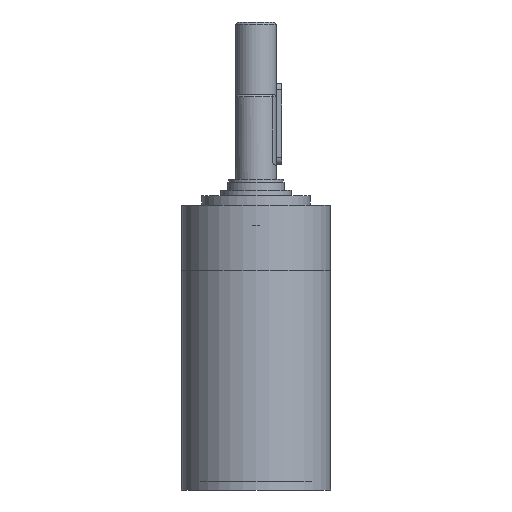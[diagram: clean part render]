
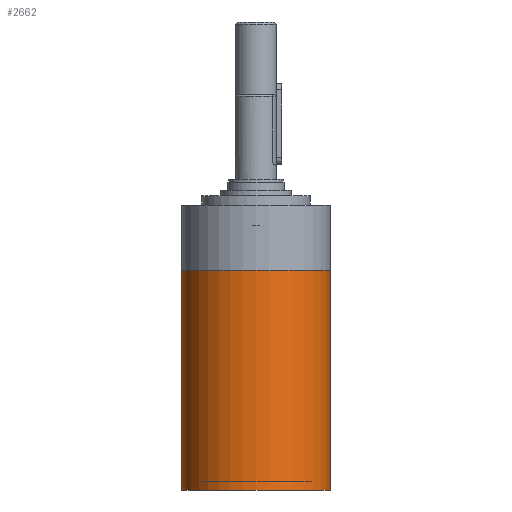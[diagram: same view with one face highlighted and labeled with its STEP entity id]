
A CAD part, left-side view. The second image highlights one B-rep face of the part: STEP entity #2662.
In plain terms, the highlighted cylindrical face has radius 11 mm (diameter 22 mm), a full revolution.
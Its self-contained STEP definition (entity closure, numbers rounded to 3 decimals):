
#2662=ADVANCED_FACE('',(#3353,#3354),#3180,.T.);
#3180=CYLINDRICAL_SURFACE('',#8344,11.);
#3353=FACE_BOUND('',#3914,.T.);
#3354=FACE_BOUND('',#3915,.T.);
#3914=EDGE_LOOP('',(#4746));
#3915=EDGE_LOOP('',(#4747));
#4746=ORIENTED_EDGE('',*,*,#7134,.F.);
#4747=ORIENTED_EDGE('',*,*,#7135,.T.);
#6462=VERTEX_POINT('',#10813);
#6463=VERTEX_POINT('',#10815);
#7134=EDGE_CURVE('',#6462,#6462,#7992,.T.);
#7135=EDGE_CURVE('',#6463,#6463,#7993,.T.);
#7992=CIRCLE('',#8342,11.);
#7993=CIRCLE('',#8343,11.);
#8342=AXIS2_PLACEMENT_3D('',#10812,#9127,#9128);
#8343=AXIS2_PLACEMENT_3D('',#10814,#9129,#9130);
#8344=AXIS2_PLACEMENT_3D('',#10816,#9131,#9132);
#9127=DIRECTION('',(0.,0.,-1.));
#9128=DIRECTION('',(1.,0.,0.));
#9129=DIRECTION('',(0.,0.,-1.));
#9130=DIRECTION('',(1.,0.,0.));
#9131=DIRECTION('',(0.,0.,1.));
#9132=DIRECTION('',(1.,0.,0.));
#10812=CARTESIAN_POINT('',(0.,0.,0.));
#10813=CARTESIAN_POINT('',(11.,0.,0.));
#10814=CARTESIAN_POINT('',(0.,0.,32.399));
#10815=CARTESIAN_POINT('',(11.,0.,32.399));
#10816=CARTESIAN_POINT('',(0.,0.,32.4));
